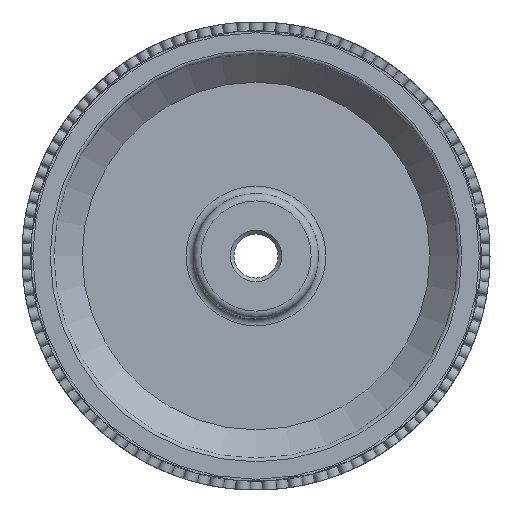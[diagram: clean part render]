
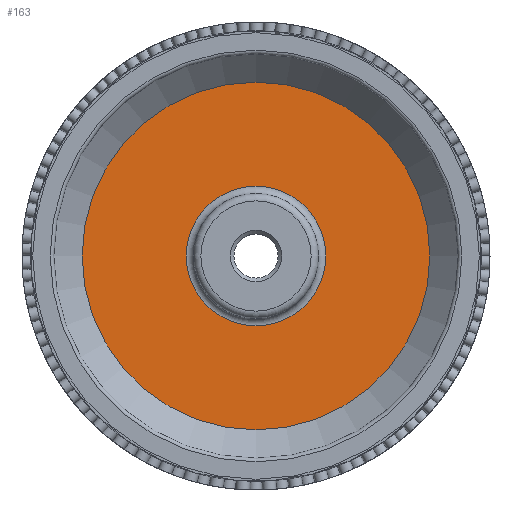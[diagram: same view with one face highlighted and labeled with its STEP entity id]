
A CAD part, front view. The second image highlights one B-rep face of the part: STEP entity #163.
In plain terms, the highlighted planar face has unit normal (0, -1, 0).
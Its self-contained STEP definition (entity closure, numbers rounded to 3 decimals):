
#163 = ADVANCED_FACE( '', ( #695, #696 ), #697, .F. );
#695 = FACE_BOUND( '', #2177, .T. );
#696 = FACE_OUTER_BOUND( '', #2178, .T. );
#697 = PLANE( '', #2179 );
#2177 = EDGE_LOOP( '', ( #3698 ) );
#2178 = EDGE_LOOP( '', ( #3699 ) );
#2179 = AXIS2_PLACEMENT_3D( '', #3700, #3701, #3702 );
#3698 = ORIENTED_EDGE( '', *, *, #6049, .T. );
#3699 = ORIENTED_EDGE( '', *, *, #6054, .T. );
#3700 = CARTESIAN_POINT( '', ( 0., 5.35, 23.65 ) );
#3701 = DIRECTION( '', ( 0., 1., 0. ) );
#3702 = DIRECTION( '', ( 0., 0., 1. ) );
#6049 = EDGE_CURVE( '', #6580, #6580, #6581, .T. );
#6054 = EDGE_CURVE( '', #6590, #6590, #6591, .T. );
#6580 = VERTEX_POINT( '', #7707 );
#6581 = CIRCLE( '', #7708, 9.5 );
#6590 = VERTEX_POINT( '', #7717 );
#6591 = CIRCLE( '', #7718, 23.65 );
#7707 = CARTESIAN_POINT( '', ( 0., 5.35, 9.5 ) );
#7708 = AXIS2_PLACEMENT_3D( '', #22342, #22343, #22344 );
#7717 = CARTESIAN_POINT( '', ( 0., 5.35, -23.65 ) );
#7718 = AXIS2_PLACEMENT_3D( '', #22357, #22358, #22359 );
#22342 = CARTESIAN_POINT( '', ( 0., 5.35, 0. ) );
#22343 = DIRECTION( '', ( 0., 1., 0. ) );
#22344 = DIRECTION( '', ( 0., 0., 1. ) );
#22357 = CARTESIAN_POINT( '', ( 0., 5.35, 0. ) );
#22358 = DIRECTION( '', ( 0., -1., 0. ) );
#22359 = DIRECTION( '', ( 0., 0., -1. ) );
